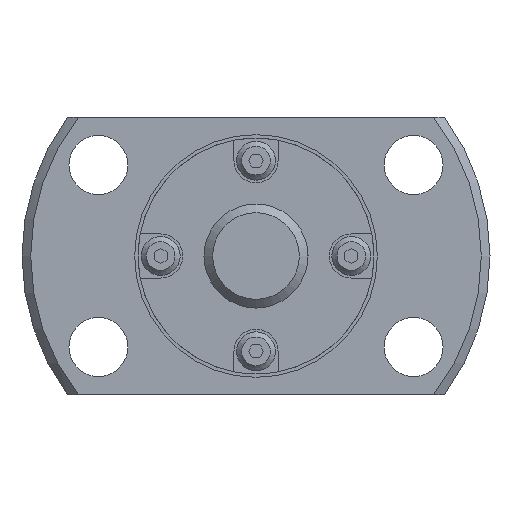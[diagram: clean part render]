
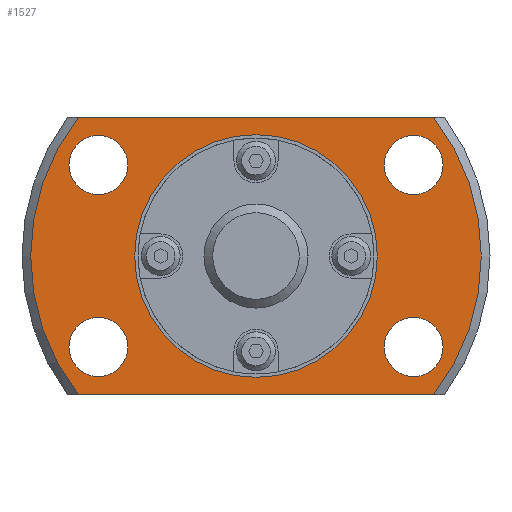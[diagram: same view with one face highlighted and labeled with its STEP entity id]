
A CAD part, left-side view. The second image highlights one B-rep face of the part: STEP entity #1527.
In plain terms, the highlighted planar face has unit normal (-1, 0, 0).
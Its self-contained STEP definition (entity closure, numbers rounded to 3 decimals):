
#125=LINE('',#2498,#245);
#126=LINE('',#2502,#246);
#245=VECTOR('',#2005,1000.);
#246=VECTOR('',#2008,1000.);
#445=ORIENTED_EDGE('',*,*,#810,.T.);
#446=ORIENTED_EDGE('',*,*,#811,.T.);
#447=ORIENTED_EDGE('',*,*,#812,.T.);
#448=ORIENTED_EDGE('',*,*,#813,.T.);
#449=ORIENTED_EDGE('',*,*,#767,.F.);
#450=ORIENTED_EDGE('',*,*,#814,.T.);
#451=ORIENTED_EDGE('',*,*,#815,.F.);
#452=ORIENTED_EDGE('',*,*,#816,.T.);
#453=ORIENTED_EDGE('',*,*,#809,.T.);
#767=EDGE_CURVE('',#962,#963,#1080,.T.);
#809=EDGE_CURVE('',#999,#999,#1101,.T.);
#810=EDGE_CURVE('',#1000,#1000,#1102,.T.);
#811=EDGE_CURVE('',#1001,#1001,#1103,.T.);
#812=EDGE_CURVE('',#1002,#1002,#1104,.T.);
#813=EDGE_CURVE('',#1003,#1003,#1105,.T.);
#814=EDGE_CURVE('',#962,#1004,#125,.T.);
#815=EDGE_CURVE('',#1005,#1004,#1106,.T.);
#816=EDGE_CURVE('',#1005,#963,#126,.T.);
#962=VERTEX_POINT('',#2391);
#963=VERTEX_POINT('',#2393);
#999=VERTEX_POINT('',#2488);
#1000=VERTEX_POINT('',#2491);
#1001=VERTEX_POINT('',#2493);
#1002=VERTEX_POINT('',#2495);
#1003=VERTEX_POINT('',#2497);
#1004=VERTEX_POINT('',#2499);
#1005=VERTEX_POINT('',#2501);
#1080=CIRCLE('',#1666,13.);
#1101=CIRCLE('',#1695,6.8);
#1102=CIRCLE('',#1697,1.7);
#1103=CIRCLE('',#1698,1.7);
#1104=CIRCLE('',#1699,1.7);
#1105=CIRCLE('',#1700,1.7);
#1106=CIRCLE('',#1701,13.);
#1183=EDGE_LOOP('',(#445));
#1184=EDGE_LOOP('',(#446));
#1185=EDGE_LOOP('',(#447));
#1186=EDGE_LOOP('',(#448));
#1187=EDGE_LOOP('',(#449,#450,#451,#452));
#1188=EDGE_LOOP('',(#453));
#1335=FACE_BOUND('',#1183,.T.);
#1336=FACE_BOUND('',#1184,.T.);
#1337=FACE_BOUND('',#1185,.T.);
#1338=FACE_BOUND('',#1186,.T.);
#1339=FACE_BOUND('',#1187,.T.);
#1340=FACE_BOUND('',#1188,.T.);
#1450=PLANE('',#1696);
#1527=ADVANCED_FACE('',(#1335,#1336,#1337,#1338,#1339,#1340),#1450,.F.);
#1666=AXIS2_PLACEMENT_3D('',#2392,#1917,#1918);
#1695=AXIS2_PLACEMENT_3D('',#2487,#1993,#1994);
#1696=AXIS2_PLACEMENT_3D('',#2489,#1995,#1996);
#1697=AXIS2_PLACEMENT_3D('',#2490,#1997,#1998);
#1698=AXIS2_PLACEMENT_3D('',#2492,#1999,#2000);
#1699=AXIS2_PLACEMENT_3D('',#2494,#2001,#2002);
#1700=AXIS2_PLACEMENT_3D('',#2496,#2003,#2004);
#1701=AXIS2_PLACEMENT_3D('',#2500,#2006,#2007);
#1917=DIRECTION('',(1.,0.,0.));
#1918=DIRECTION('',(0.,0.,-1.));
#1993=DIRECTION('',(1.,0.,0.));
#1994=DIRECTION('',(0.,0.,-1.));
#1995=DIRECTION('',(1.,0.,0.));
#1996=DIRECTION('',(0.,0.,-1.));
#1997=DIRECTION('',(1.,0.,0.));
#1998=DIRECTION('',(0.,0.,-1.));
#1999=DIRECTION('',(1.,0.,0.));
#2000=DIRECTION('',(0.,0.,-1.));
#2001=DIRECTION('',(1.,0.,0.));
#2002=DIRECTION('',(0.,0.,-1.));
#2003=DIRECTION('',(1.,0.,0.));
#2004=DIRECTION('',(0.,0.,-1.));
#2005=DIRECTION('',(0.,-1.,0.));
#2006=DIRECTION('',(1.,0.,0.));
#2007=DIRECTION('',(0.,0.,-1.));
#2008=DIRECTION('',(0.,1.,0.));
#2391=CARTESIAN_POINT('',(8.,10.247,-8.));
#2392=CARTESIAN_POINT('',(8.,0.,0.));
#2393=CARTESIAN_POINT('',(8.,10.247,8.));
#2487=CARTESIAN_POINT('',(8.,0.,0.));
#2488=CARTESIAN_POINT('',(8.,0.,-6.8));
#2489=CARTESIAN_POINT('',(8.,6.8,0.));
#2490=CARTESIAN_POINT('',(8.,-9.093,-5.25));
#2491=CARTESIAN_POINT('',(8.,-9.093,-6.95));
#2492=CARTESIAN_POINT('',(8.,-9.093,5.25));
#2493=CARTESIAN_POINT('',(8.,-9.093,3.55));
#2494=CARTESIAN_POINT('',(8.,9.093,-5.25));
#2495=CARTESIAN_POINT('',(8.,9.093,-6.95));
#2496=CARTESIAN_POINT('',(8.,9.093,5.25));
#2497=CARTESIAN_POINT('',(8.,9.093,3.55));
#2498=CARTESIAN_POINT('',(8.,6.8,-8.));
#2499=CARTESIAN_POINT('',(8.,-10.247,-8.));
#2500=CARTESIAN_POINT('',(8.,0.,0.));
#2501=CARTESIAN_POINT('',(8.,-10.247,8.));
#2502=CARTESIAN_POINT('',(8.,6.8,8.));
